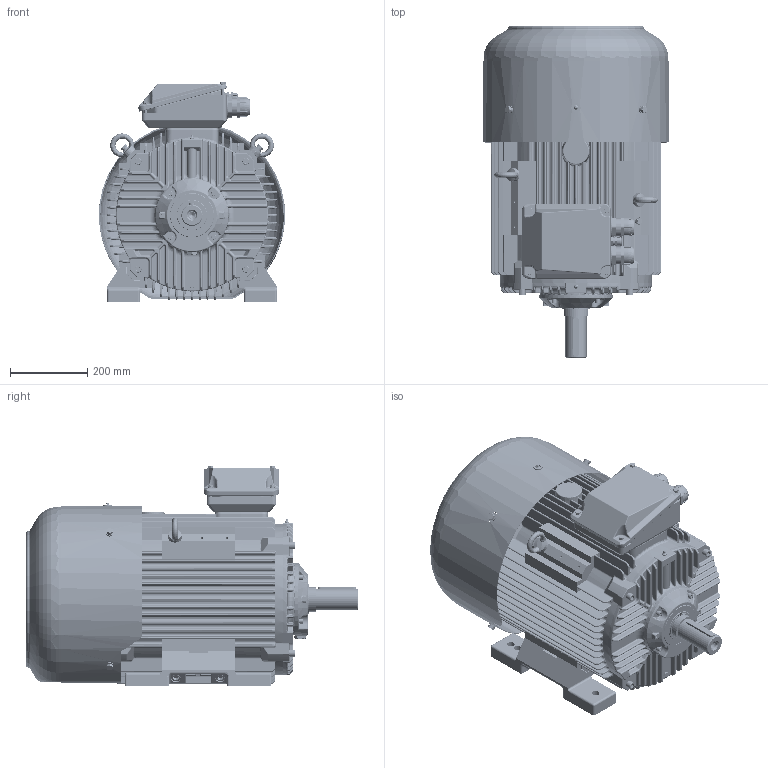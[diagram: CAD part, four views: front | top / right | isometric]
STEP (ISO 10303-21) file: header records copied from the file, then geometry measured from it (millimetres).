
FILE_DESCRIPTION(/* description */ ('Unknown'),/* implementation_level */ '2;1');
FILE_NAME(/* name */ 'SIE225M2-K',/* time_stamp */ '2021-12-28T13:17:24+01:00',/* author */ ('Unknown'),/* organization */ ('Unknown'),/* preprocessor_version */ 'ST-DEVELOPER v16.7',/* originating_system */ 'DEX',/* authorisation */ $);
FILE_SCHEMA (('AUTOMOTIVE_DESIGN {1 0 10303 214 3 1 1}'));
Length unit declared in the file: millimetre
Products named in the file (1): SIE225M2-K
Bounding box: 482.33 x 860 x 570.4 mm (x, y, z)
Volume: 17745373.1 mm3; surface area: 4725870.9 mm2
Topology: 1 solids, 24 shells, 10221 faces, 26799 edges, 16389 vertices
Faces by surface type: plane 4937, cylinder 2477, bspline 1320, torus 835, sphere 346, cone 306
Full cylindrical faces by diameter (mm): 1.5 x2, 3 x2, 3.242 x2, 4 x2, 4.134 x2, 6 x7, 6.466 x5, 6.647 x12, 8 x15, 8.16 x5, 8.376 x8, 8.917 x2, 9 x9, 9.091 x1, 9.853 x4, 10 x23, 10.106 x8, 10.5 x4, 11 x1, 11.63 x5, 12 x8, 13 x7, 13.546 x4, 13.835 x4, 14 x10, 14.376 x9, 14.63 x5, 16 x8, 17 x1, 17.294 x1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
Entity records: 405301 total; most frequent: CARTESIAN_POINT 90114, ORIENTED_EDGE 51222, DIRECTION 48818, EDGE_CURVE 25611, AXIS2_PLACEMENT_3D 16924, VERTEX_POINT 16043, LINE 14970, VECTOR 14970
